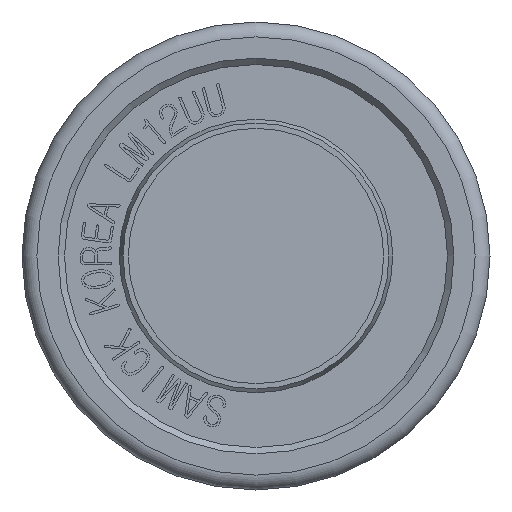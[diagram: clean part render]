
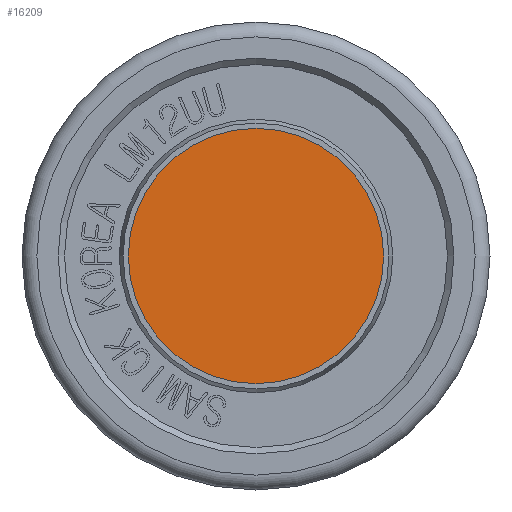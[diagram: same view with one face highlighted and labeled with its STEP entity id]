
A CAD part, front view. The second image highlights one B-rep face of the part: STEP entity #16209.
In plain terms, the highlighted planar face has unit normal (0, -1, 0).
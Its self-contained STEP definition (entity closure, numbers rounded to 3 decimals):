
#41=CIRCLE('',#16486,6.);
#353=PLANE('',#16488);
#1165=FACE_OUTER_BOUND('',#2034,.T.);
#2034=EDGE_LOOP('',(#13904));
#6994=VERTEX_POINT('',#28101);
#9315=EDGE_CURVE('',#6994,#6994,#41,.T.);
#13904=ORIENTED_EDGE('',*,*,#9315,.F.);
#16209=ADVANCED_FACE('',(#1165),#353,.T.);
#16486=AXIS2_PLACEMENT_3D('',#28103,#18129,#18130);
#16488=AXIS2_PLACEMENT_3D('',#28105,#18133,#18134);
#18129=DIRECTION('center_axis',(0.,1.,0.));
#18130=DIRECTION('ref_axis',(1.,0.,0.));
#18133=DIRECTION('center_axis',(0.,-1.,0.));
#18134=DIRECTION('ref_axis',(0.,0.,-1.));
#28101=CARTESIAN_POINT('',(-6.,-53.5,0.));
#28103=CARTESIAN_POINT('Origin',(0.,-53.5,0.));
#28105=CARTESIAN_POINT('Origin',(0.,-53.5,0.));
